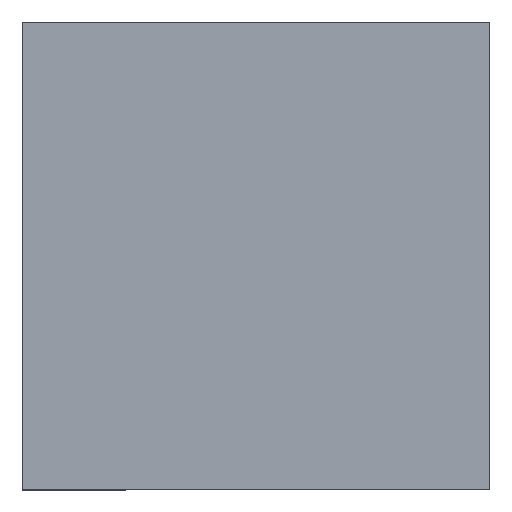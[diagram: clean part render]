
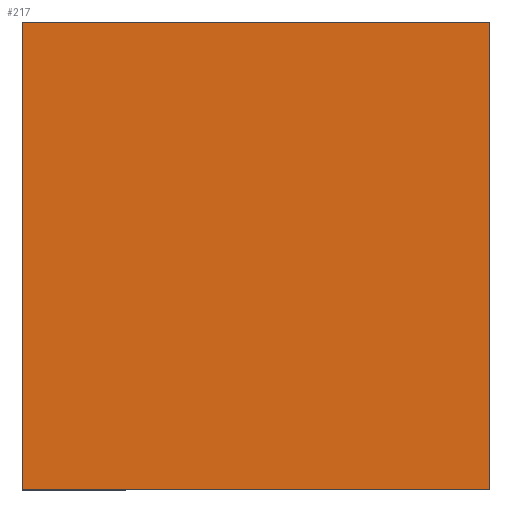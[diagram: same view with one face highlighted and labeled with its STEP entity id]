
A CAD part, top view. The second image highlights one B-rep face of the part: STEP entity #217.
In plain terms, the highlighted planar face has unit normal (0, 0, 1).
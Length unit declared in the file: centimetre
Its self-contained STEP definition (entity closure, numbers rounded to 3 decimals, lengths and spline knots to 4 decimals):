
#2 = ORIENTED_EDGE ( 'NONE', *, *, #310, .T. ) ;
#13 = LINE ( 'NONE', #510, #51 ) ;
#43 = EDGE_LOOP ( 'NONE', ( #234, #135, #338, #2 ) ) ;
#51 = VECTOR ( 'NONE', #201, 100. ) ;
#56 = CARTESIAN_POINT ( 'NONE',  ( 1000., 1000., 1000. ) ) ;
#60 = CARTESIAN_POINT ( 'NONE',  ( 0., 1000., 1000. ) ) ;
#84 = EDGE_CURVE ( 'NONE', #301, #404, #547, .T. ) ;
#88 = VERTEX_POINT ( 'NONE', #60 ) ;
#96 = CARTESIAN_POINT ( 'NONE',  ( 1000., 1000., 1000. ) ) ;
#113 = EDGE_CURVE ( 'NONE', #88, #301, #13, .T. ) ;
#125 = VECTOR ( 'NONE', #291, 100. ) ;
#135 = ORIENTED_EDGE ( 'NONE', *, *, #84, .T. ) ;
#146 = DIRECTION ( 'NONE',  ( 0., 0., 1. ) ) ;
#159 = CARTESIAN_POINT ( 'NONE',  ( 0., 0., 1000. ) ) ;
#201 = DIRECTION ( 'NONE',  ( 0., -1., 0. ) ) ;
#205 = LINE ( 'NONE', #300, #309 ) ;
#217 = ADVANCED_FACE ( 'NONE', ( #451 ), #548, .T. ) ;
#223 = CARTESIAN_POINT ( 'NONE',  ( 0., 0., 1000. ) ) ;
#234 = ORIENTED_EDGE ( 'NONE', *, *, #113, .T. ) ;
#254 = CARTESIAN_POINT ( 'NONE',  ( 0., 0., 1000. ) ) ;
#274 = DIRECTION ( 'NONE',  ( 1., 0., 0. ) ) ;
#289 = DIRECTION ( 'NONE',  ( -1., 0., 0. ) ) ;
#291 = DIRECTION ( 'NONE',  ( 1., 0., 0. ) ) ;
#300 = CARTESIAN_POINT ( 'NONE',  ( 0., 1000., 1000. ) ) ;
#301 = VERTEX_POINT ( 'NONE', #254 ) ;
#309 = VECTOR ( 'NONE', #289, 100. ) ;
#310 = EDGE_CURVE ( 'NONE', #561, #88, #205, .T. ) ;
#322 = VECTOR ( 'NONE', #469, 100. ) ;
#338 = ORIENTED_EDGE ( 'NONE', *, *, #586, .T. ) ;
#404 = VERTEX_POINT ( 'NONE', #526 ) ;
#451 = FACE_OUTER_BOUND ( 'NONE', #43, .T. ) ;
#469 = DIRECTION ( 'NONE',  ( 0., 1., 0. ) ) ;
#510 = CARTESIAN_POINT ( 'NONE',  ( 0., 1000., 1000. ) ) ;
#526 = CARTESIAN_POINT ( 'NONE',  ( 1000., 0., 1000. ) ) ;
#547 = LINE ( 'NONE', #159, #125 ) ;
#548 = PLANE ( 'NONE',  #583 ) ;
#561 = VERTEX_POINT ( 'NONE', #56 ) ;
#567 = LINE ( 'NONE', #96, #322 ) ;
#583 = AXIS2_PLACEMENT_3D ( 'NONE', #223, #146, #274 ) ;
#586 = EDGE_CURVE ( 'NONE', #404, #561, #567, .T. ) ;
